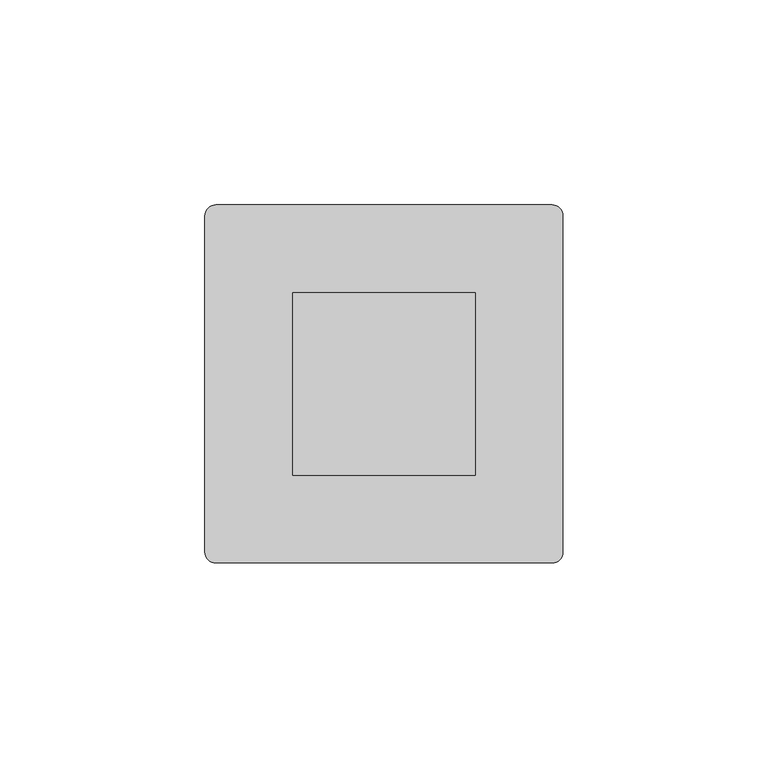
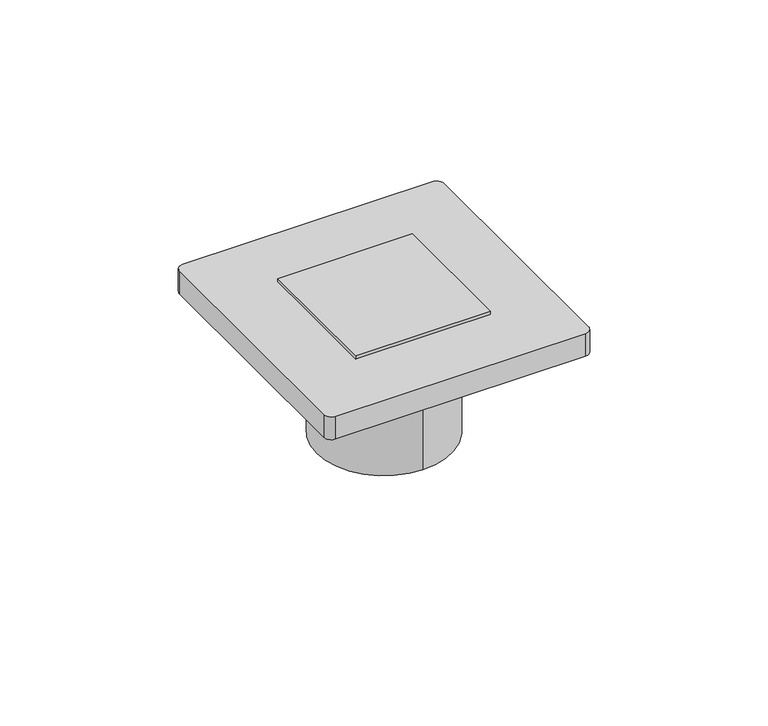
"""IFC4 building model written with IfcOpenShell, lengths in millimetres: light fixture geometry, LSLDQ00_SURFACE MOUNT BASIC : LLSLDQ00W-T40."""

import ifcopenshell
import ifcopenshell.guid

model = None  # the IFC model being written
_history = None  # IfcOwnerHistory: only IFC2X3 demands one
_inside = {}  # id of a spatial element -> (the spatial element, [elements in it])
_under = {}  # id of a project, library or spatial element -> (it, [spatial elements below it])
_declared = {}  # id of a project -> (the project, [libraries it declares])
_typed = {}  # id of a type object -> (the type object, [elements of that type])
_made_of = {}  # id of a material, layer set ... -> (it, [elements and type objects made of it])


def new_model(schema):
    """Start an empty IFC model of exactly this schema.

    Asked for "IFC4X3", IfcOpenShell would pick the latest addendum, in which some entities
    have other attributes; the version numbers below select the first issue.
    IFC2X3 requires an IfcOwnerHistory on every rooted entity: one is made here for all.
    """
    global model, _history
    if schema == "IFC4X3":
        model = ifcopenshell.file(schema_version=(4, 3, 0, 0))
    else:
        model = ifcopenshell.file(schema=schema)
    _inside.clear()
    _under.clear()
    _declared.clear()
    _typed.clear()
    _made_of.clear()
    _history = None
    if model.schema == "IFC2X3":
        org = make("IfcOrganization", Name="unknown")
        user = make(
            "IfcPersonAndOrganization",
            ThePerson=make("IfcPerson", FamilyName="unknown"),
            TheOrganization=org,
        )
        app = make(
            "IfcApplication",
            ApplicationDeveloper=org,
            Version="unknown",
            ApplicationFullName="unknown",
            ApplicationIdentifier="unknown",
        )
        _history = make(
            "IfcOwnerHistory",
            OwningUser=user,
            OwningApplication=app,
            ChangeAction="ADDED",
            CreationDate=0,
        )
    return model


def make(cls, **values):
    """One entity of the class cls with the attributes given. An attribute that is None is left unset."""
    return model.create_entity(
        cls, **{name: value for name, value in values.items() if value is not None}
    )


def rooted(cls, **values):
    """An entity with a GlobalId (a new one), such as an element, a storey or a relation."""
    return make(cls, GlobalId=ifcopenshell.guid.new(), OwnerHistory=_history, **values)


def si_unit(unit_type, name, prefix=None):
    """IfcSIUnit, for example si_unit("LENGTHUNIT", "METRE", prefix="MILLI")."""
    return make("IfcSIUnit", UnitType=unit_type, Prefix=prefix, Name=name)


def assignment(units):
    """IfcUnitAssignment: the units of a project."""
    return None if units is None else make("IfcUnitAssignment", Units=units)


def point(xyz):
    """IfcCartesianPoint."""
    return None if xyz is None else make("IfcCartesianPoint", Coordinates=xyz)


def direction(xyz):
    """IfcDirection."""
    return None if xyz is None else make("IfcDirection", DirectionRatios=xyz)


def frame(location, z_axis=None, x_axis=None):
    """IfcAxis2Placement3D, a coordinate frame: its origin and axes. An axis left out is left unset."""
    return make(
        "IfcAxis2Placement3D",
        Location=point(location),
        Axis=direction(z_axis),
        RefDirection=direction(x_axis),
    )


def frame_2d(location, x_axis=None):
    """IfcAxis2Placement2D, a coordinate frame in the plane: its origin and x axis."""
    return make(
        "IfcAxis2Placement2D", Location=point(location), RefDirection=direction(x_axis)
    )


def origin():
    """The frame at (0, 0, 0) with its axes left unset."""
    return frame((0.0, 0.0, 0.0))


def origin_with_axes():
    """The frame at (0, 0, 0) with the z axis (0, 0, 1) and the x axis (1, 0, 0) written out."""
    return frame((0.0, 0.0, 0.0), z_axis=(0.0, 0.0, 1.0), x_axis=(1.0, 0.0, 0.0))


def place(relative_to, where):
    """IfcLocalPlacement: puts the frame where relative to a parent placement (None: the world)."""
    return make(
        "IfcLocalPlacement", PlacementRelTo=relative_to, RelativePlacement=where
    )


def context(
    kind, dimensions, precision=None, world=None, true_north=None, identifier=None
):
    """IfcGeometricRepresentationContext, for example the 3D "Model" context."""
    return make(
        "IfcGeometricRepresentationContext",
        ContextIdentifier=identifier,
        ContextType=kind,
        CoordinateSpaceDimension=dimensions,
        Precision=precision,
        WorldCoordinateSystem=world,
        TrueNorth=true_north,
    )


def project(units=None, contexts=None):
    """IfcProject with its units and contexts."""
    return rooted(
        "IfcProject",
        Name="project",
        RepresentationContexts=contexts,
        UnitsInContext=assignment(units),
    )


def spatial(cls, under=None, at=None, **own):
    """A site, building, storey or space (cls), placed at a placement, below another one or the project."""
    s = rooted(cls, ObjectPlacement=at, **own)
    if under is not None:
        _under.setdefault(under.id(), (under, []))[1].append(s)
    return s


def polyline(points):
    """IfcPolyline through the points."""
    return make("IfcPolyline", Points=[point(p) for p in points])


def circle_curve(where, radius):
    """IfcCircle in the frame where."""
    return make("IfcCircle", Position=where, Radius=radius)


def trimmed(basis, trim1, trim2, sense, master):
    """IfcTrimmedCurve: the piece of a basis curve between two trims."""
    return make(
        "IfcTrimmedCurve",
        BasisCurve=basis,
        Trim1=trim1,
        Trim2=trim2,
        SenseAgreement=sense,
        MasterRepresentation=master,
    )


def segment(curve, same_sense, transition):
    """IfcCompositeCurveSegment."""
    return make(
        "IfcCompositeCurveSegment",
        Transition=transition,
        SameSense=same_sense,
        ParentCurve=curve,
    )


def composite_curve(segments, self_intersect=None):
    """IfcCompositeCurve: segments joined end to end."""
    return make("IfcCompositeCurve", Segments=segments, SelfIntersect=self_intersect)


def outline(outer, holes=None, kind="AREA"):
    """IfcArbitraryClosedProfileDef: a profile drawn as a closed curve; with holes, ...WithVoids."""
    if holes is None:
        return make("IfcArbitraryClosedProfileDef", ProfileType=kind, OuterCurve=outer)
    return make(
        "IfcArbitraryProfileDefWithVoids",
        ProfileType=kind,
        OuterCurve=outer,
        InnerCurves=holes,
    )


def extrude(swept, where, along, depth):
    """IfcExtrudedAreaSolid: the profile swept, set in the frame where, extruded along a direction by depth."""
    return make(
        "IfcExtrudedAreaSolid",
        SweptArea=swept,
        Position=where,
        ExtrudedDirection=direction(along),
        Depth=depth,
    )


def shape(context_of_items, identifier, shape_type, items):
    """IfcShapeRepresentation: the items that make up one representation, for example the "Body"."""
    return make(
        "IfcShapeRepresentation",
        ContextOfItems=context_of_items,
        RepresentationIdentifier=identifier,
        RepresentationType=shape_type,
        Items=items,
    )


def source(mapping_origin, context_of_items, identifier, shape_type, items):
    """IfcRepresentationMap: a shape defined once, which mapped items show again and again."""
    return make(
        "IfcRepresentationMap",
        MappingOrigin=mapping_origin,
        MappedRepresentation=shape(context_of_items, identifier, shape_type, items),
    )


def transform(
    local_origin,
    x_axis=None,
    y_axis=None,
    z_axis=None,
    scale=None,
    scale2=None,
    scale3=None,
    uniform=True,
):
    """IfcCartesianTransformationOperator3D, or its non-uniform kind. x_axis, y_axis, z_axis: its Axis1, 2, 3."""
    if uniform:
        return make(
            "IfcCartesianTransformationOperator3D",
            Axis1=direction(x_axis),
            Axis2=direction(y_axis),
            LocalOrigin=point(local_origin),
            Scale=scale,
            Axis3=direction(z_axis),
        )
    return make(
        "IfcCartesianTransformationOperator3DnonUniform",
        Axis1=direction(x_axis),
        Axis2=direction(y_axis),
        LocalOrigin=point(local_origin),
        Scale=scale,
        Axis3=direction(z_axis),
        Scale2=scale2,
        Scale3=scale3,
    )


def mapped(mapping_source, mapping_target):
    """IfcMappedItem: shows the shape of a source again, moved by a transform."""
    return make(
        "IfcMappedItem", MappingSource=mapping_source, MappingTarget=mapping_target
    )


def made_of(thing, what):
    """Note that an element or type object is made of a material, layer set ...; save() writes the relation."""
    if what is not None:
        _made_of.setdefault(what.id(), (what, []))[1].append(thing)
    return thing


def element(
    cls,
    number,
    at=None,
    inside=None,
    cuts=None,
    type_object=None,
    material=None,
    context=None,
    identifier="Body",
    shape_type=None,
    held_by="IfcProductDefinitionShape",
    body=None,
    shapes=None,
    **own,
):
    """One element of the class cls, such as IfcWall. Its Tag is "e" and its number.

    at: its placement. inside: the storey or other place that contains it. cuts: it is an
    opening in that element (IfcRelVoidsElement). A single representation is given by context,
    identifier, shape_type and body (its items); several are given by shapes. held_by: the class
    of the entity that holds the representations. save() writes the other relations.
    """
    e = rooted(cls, Tag="e%d" % number, ObjectPlacement=at, **own)
    if body is not None:
        shapes = [shape(context, identifier, shape_type, body)]
    if shapes is not None:
        e.Representation = make(held_by, Representations=shapes)
    if inside is not None:
        _inside.setdefault(inside.id(), (inside, []))[1].append(e)
    if cuts is not None:
        rooted(
            "IfcRelVoidsElement", RelatingBuildingElement=cuts, RelatedOpeningElement=e
        )
    if type_object is not None:
        _typed.setdefault(type_object.id(), (type_object, []))[1].append(e)
    return made_of(e, material)


def aggregate(whole, parts):
    """IfcRelAggregates: a whole, such as a stair, and the parts it consists of."""
    return rooted("IfcRelAggregates", RelatingObject=whole, RelatedObjects=parts)


def save(model, path):
    """Write the relations noted so far, then the file.

    IfcRelAggregates (storeys below a building ...), IfcRelContainedInSpatialStructure (elements
    in a storey), IfcRelDefinesByType, IfcRelAssociatesMaterial and IfcRelDeclares: one each for
    every whole, place, type object, material and project.
    """
    for whole, parts in _under.values():
        aggregate(whole, parts)
    for where, things in _inside.values():
        rooted(
            "IfcRelContainedInSpatialStructure",
            RelatedElements=things,
            RelatingStructure=where,
        )
    for kind, things in _typed.values():
        rooted("IfcRelDefinesByType", RelatedObjects=things, RelatingType=kind)
    for what, things in _made_of.values():
        rooted("IfcRelAssociatesMaterial", RelatedObjects=things, RelatingMaterial=what)
    for by, libraries in _declared.values():
        rooted("IfcRelDeclares", RelatingContext=by, RelatedDefinitions=libraries)
    model.write(path)


def light_fixture_beaa7f83(model_context):
    return source(origin(), model_context, "Body", "SweptSolid", [
        extrude(outline(composite_curve([segment(trimmed(circle_curve(frame_2d((41.0765625, 7.2772743)), 2.5796875), [point((41.0765625, 9.8569618))], [point((43.65625, 7.2772743))], False, "CARTESIAN"), True, "CONTINUOUS"), segment(polyline([(43.65625, 7.2772743), (43.65625, -74.8758507)]), True, "CONTINUOUS"), segment(trimmed(circle_curve(frame_2d((41.0765625, -74.8758507)), 2.5796875), [point((43.65625, -74.8758507))], [point((41.0765625, -77.4555382))], False, "CARTESIAN"), True, "CONTINUOUS"), segment(polyline([(41.0765625, -77.4555382), (-41.0765625, -77.4555382)]), True, "CONTINUOUS"), segment(trimmed(circle_curve(frame_2d((-41.0765625, -74.8758507)), 2.5796875), [point((-41.0765625, -77.4555382))], [point((-43.65625, -74.8758507))], False, "CARTESIAN"), True, "CONTINUOUS"), segment(polyline([(-43.65625, -74.8758507), (-43.65625, 7.2790368)]), True, "CONTINUOUS"), segment(trimmed(circle_curve(frame_2d((-41.078325, 7.2790368)), 2.577925), [point((-43.65625, 7.2790368))], [point((-41.078325, 9.8569618))], False, "CARTESIAN"), True, "CONTINUOUS"), segment(polyline([(-41.078325, 9.8569618), (41.0765625, 9.8569618)]), True, "CONTINUOUS")], self_intersect=False)), origin_with_axes(), (0.0, 0.0, 1.0), 7.9375),
        extrude(outline(polyline([(22.225, -11.5742882), (22.225, -56.0242882), (-22.225, -56.0242882), (-22.225, -11.5742882), (22.225, -11.5742882)])), frame((0.0, 0.0, 7.9375), z_axis=(0.0, 0.0, 1.0), x_axis=(1.0, 0.0, 0.0)), (0.0, 0.0, 1.0), 1.3880793),
        extrude(outline(composite_curve([segment(trimmed(circle_curve(frame_2d((0.0, -33.7992882)), 22.225), [point((0.0, -11.5742882))], [point((0.0, -56.0242882))], False, "CARTESIAN"), True, "CONTINUOUS"), segment(trimmed(circle_curve(frame_2d((0.0, -33.7992882)), 22.225), [point((0.0, -56.0242882))], [point((0.0, -11.5742882))], False, "CARTESIAN"), True, "CONTINUOUS")], self_intersect=False)), frame((0.0, 0.0, -38.1), z_axis=(0.0, 0.0, 1.0), x_axis=(1.0, 0.0, 0.0)), (0.0, 0.0, 1.0), 38.1),
    ])


if __name__ == "__main__":
    model = new_model("IFC4")
    model_context = context("Model", 3, world=origin())
    ifc_project = project(units=[si_unit("LENGTHUNIT", "METRE", prefix="MILLI")], contexts=[model_context])
    site = spatial("IfcSite", under=ifc_project)
    building = spatial("IfcBuilding", under=site)
    placement = place(None, origin())
    light_fixture_shape = light_fixture_beaa7f83(model_context)
    element("IfcLightFixture", 1, ObjectType="LSLDQ00_SURFACE MOUNT BASIC : LLSLDQ00W-T40", at=placement, inside=building, context=model_context, shape_type="MappedRepresentation", body=[
        mapped(light_fixture_shape, transform((0.0, 0.0, 0.0), x_axis=(1.0, 0.0, 0.0), y_axis=(0.0, 1.0, 0.0), z_axis=(0.0, 0.0, 1.0))),
    ])
    save(model, "model.ifc")
